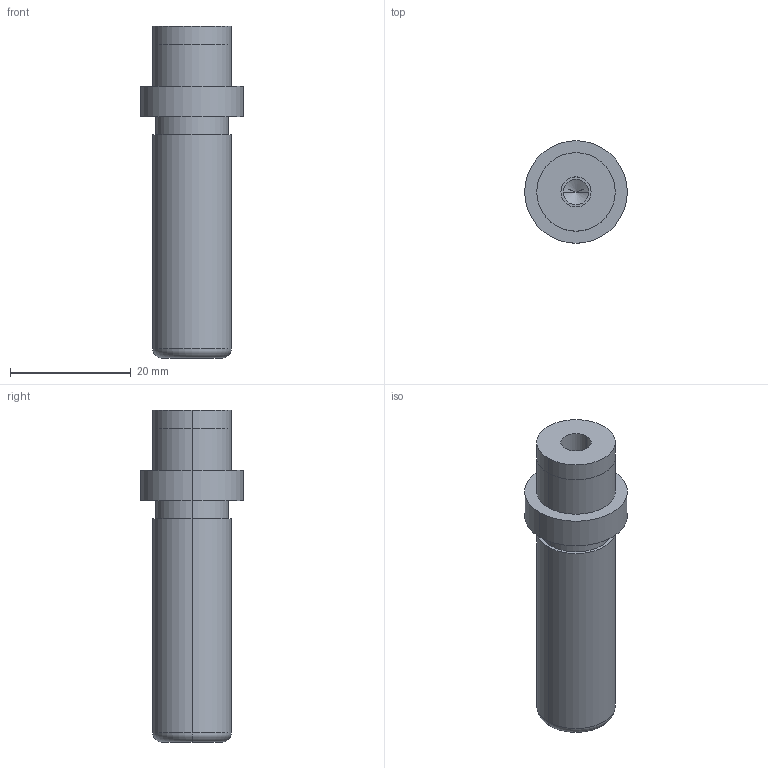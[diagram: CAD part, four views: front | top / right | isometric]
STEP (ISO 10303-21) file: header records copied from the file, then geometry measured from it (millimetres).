
FILE_DESCRIPTION(/* description */ (''),/* implementation_level */ '2;1');
FILE_NAME(/* name */ '3d_sgpw13-45_05300_r00.stp',/* time_stamp */ '2011-01-10T14:11:05+09:00',/* author */ ('MISUMI'),/* organization */ (''),/* preprocessor_version */ 'ST-DEVELOPER v11',/* originating_system */ 'UGS - NX 5.0',/* authorisation */ '');
FILE_SCHEMA (('CONFIG_CONTROL_DESIGN'));
Length unit declared in the file: millimetre
Products named in the file (1): 3d_sgpw13-45_05300_r00
Bounding box: 17 x 17 x 55 mm (x, y, z)
Volume: 7136.4 mm3; surface area: 3215.3 mm2
Topology: 1 solids, 1 shells, 31 faces, 64 edges, 38 vertices
Faces by surface type: cylinder 18, plane 7, cone 4, torus 2
Entity records: 890 total; most frequent: DIRECTION 162, CARTESIAN_POINT 130, ORIENTED_EDGE 120, AXIS2_PLACEMENT_3D 70, EDGE_CURVE 60, EDGE_LOOP 38, CIRCLE 38, VERTEX_POINT 38
